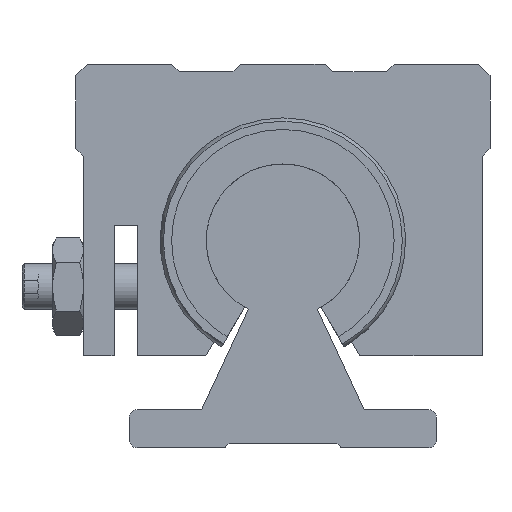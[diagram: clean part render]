
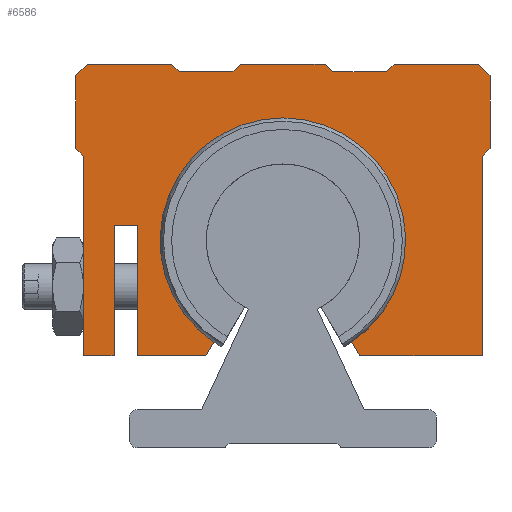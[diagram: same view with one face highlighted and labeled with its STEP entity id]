
A CAD part, left-side view. The second image highlights one B-rep face of the part: STEP entity #6586.
In plain terms, the highlighted planar face has unit normal (-1, 0, 0).
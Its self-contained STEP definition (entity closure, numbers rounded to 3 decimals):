
#5339=CARTESIAN_POINT('',(275.474,-9.0,13.771));
#5340=VERTEX_POINT('',#5339);
#5347=CARTESIAN_POINT('',(275.474,9.,13.771));
#5348=VERTEX_POINT('',#5347);
#5349=CARTESIAN_POINT('',(275.474,0.,27.0));
#5350=DIRECTION('',(-1.0,0.0,0.0));
#5351=DIRECTION('',(0.0,-1.0,0.0));
#5352=AXIS2_PLACEMENT_3D('',#5349,#5350,#5351);
#5353=CIRCLE('',#5352,16.0);
#5354=EDGE_CURVE('',#5340,#5348,#5353,.T.);
#5446=CARTESIAN_POINT('',(275.474,-5.5,50.0));
#5447=VERTEX_POINT('',#5446);
#5448=CARTESIAN_POINT('',(275.474,-6.5,49.0));
#5449=VERTEX_POINT('',#5448);
#5450=CARTESIAN_POINT('',(275.474,-5.5,50.0));
#5451=DIRECTION('',(0.0,-0.707,-0.707));
#5452=VECTOR('',#5451,1.414);
#5453=LINE('',#5450,#5452);
#5454=EDGE_CURVE('',#5447,#5449,#5453,.T.);
#5487=CARTESIAN_POINT('',(275.474,-13.5,49.0));
#5488=VERTEX_POINT('',#5487);
#5489=CARTESIAN_POINT('',(275.474,-6.5,49.0));
#5490=DIRECTION('',(0.0,-1.0,0.0));
#5491=VECTOR('',#5490,7.);
#5492=LINE('',#5489,#5491);
#5493=EDGE_CURVE('',#5449,#5488,#5492,.T.);
#5517=CARTESIAN_POINT('',(275.474,14.5,50.0));
#5518=VERTEX_POINT('',#5517);
#5519=CARTESIAN_POINT('',(275.474,13.5,49.0));
#5520=VERTEX_POINT('',#5519);
#5521=CARTESIAN_POINT('',(275.474,14.5,50.0));
#5522=DIRECTION('',(0.0,-0.707,-0.707));
#5523=VECTOR('',#5522,1.414);
#5524=LINE('',#5521,#5523);
#5525=EDGE_CURVE('',#5518,#5520,#5524,.T.);
#5558=CARTESIAN_POINT('',(275.474,6.5,49.0));
#5559=VERTEX_POINT('',#5558);
#5560=CARTESIAN_POINT('',(275.474,13.5,49.0));
#5561=DIRECTION('',(0.0,-1.0,0.0));
#5562=VECTOR('',#5561,7.);
#5563=LINE('',#5560,#5562);
#5564=EDGE_CURVE('',#5520,#5559,#5563,.T.);
#5588=CARTESIAN_POINT('',(275.474,5.5,50.0));
#5589=VERTEX_POINT('',#5588);
#5590=CARTESIAN_POINT('',(275.474,6.5,49.0));
#5591=DIRECTION('',(0.0,-0.707,0.707));
#5592=VECTOR('',#5591,1.414);
#5593=LINE('',#5590,#5592);
#5594=EDGE_CURVE('',#5559,#5589,#5593,.T.);
#5619=CARTESIAN_POINT('',(275.474,-14.5,50.0));
#5620=VERTEX_POINT('',#5619);
#5621=CARTESIAN_POINT('',(275.474,-13.5,49.0));
#5622=DIRECTION('',(0.0,-0.707,0.707));
#5623=VECTOR('',#5622,1.414);
#5624=LINE('',#5621,#5623);
#5625=EDGE_CURVE('',#5488,#5620,#5624,.T.);
#5650=CARTESIAN_POINT('',(275.474,26.,38.0));
#5651=VERTEX_POINT('',#5650);
#5652=CARTESIAN_POINT('',(275.474,27.0,39.0));
#5653=VERTEX_POINT('',#5652);
#5654=CARTESIAN_POINT('',(275.474,26.,38.0));
#5655=DIRECTION('',(0.0,0.707,0.707));
#5656=VECTOR('',#5655,1.414);
#5657=LINE('',#5654,#5656);
#5658=EDGE_CURVE('',#5651,#5653,#5657,.T.);
#5690=CARTESIAN_POINT('',(275.474,-27.0,39.0));
#5691=VERTEX_POINT('',#5690);
#5692=CARTESIAN_POINT('',(275.474,-26.,38.0));
#5693=VERTEX_POINT('',#5692);
#5694=CARTESIAN_POINT('',(275.474,-27.0,39.0));
#5695=DIRECTION('',(0.0,0.707,-0.707));
#5696=VECTOR('',#5695,1.414);
#5697=LINE('',#5694,#5696);
#5698=EDGE_CURVE('',#5691,#5693,#5697,.T.);
#5731=CARTESIAN_POINT('',(275.474,-26.,12.));
#5732=VERTEX_POINT('',#5731);
#5733=CARTESIAN_POINT('',(275.474,-26.,38.0));
#5734=DIRECTION('',(0.0,0.0,-1.0));
#5735=VECTOR('',#5734,26.);
#5736=LINE('',#5733,#5735);
#5737=EDGE_CURVE('',#5693,#5732,#5736,.T.);
#5771=CARTESIAN_POINT('',(275.474,27.0,48.5));
#5772=VERTEX_POINT('',#5771);
#5779=CARTESIAN_POINT('',(275.474,25.5,50.0));
#5780=VERTEX_POINT('',#5779);
#5781=CARTESIAN_POINT('',(275.474,27.0,48.5));
#5782=DIRECTION('',(0.0,-0.707,0.707));
#5783=VECTOR('',#5782,2.121);
#5784=LINE('',#5781,#5783);
#5785=EDGE_CURVE('',#5772,#5780,#5784,.T.);
#5809=CARTESIAN_POINT('',(275.474,27.0,39.0));
#5810=DIRECTION('',(0.0,0.0,1.0));
#5811=VECTOR('',#5810,9.5);
#5812=LINE('',#5809,#5811);
#5813=EDGE_CURVE('',#5653,#5772,#5812,.T.);
#5946=CARTESIAN_POINT('',(275.474,-25.5,50.0));
#5947=VERTEX_POINT('',#5946);
#5954=CARTESIAN_POINT('',(275.474,-27.0,48.5));
#5955=VERTEX_POINT('',#5954);
#5956=CARTESIAN_POINT('',(275.474,-25.5,50.0));
#5957=DIRECTION('',(0.0,-0.707,-0.707));
#5958=VECTOR('',#5957,2.121);
#5959=LINE('',#5956,#5958);
#5960=EDGE_CURVE('',#5947,#5955,#5959,.T.);
#5979=CARTESIAN_POINT('',(275.474,-14.5,50.0));
#5980=DIRECTION('',(0.0,-1.0,0.0));
#5981=VECTOR('',#5980,11.);
#5982=LINE('',#5979,#5981);
#5983=EDGE_CURVE('',#5620,#5947,#5982,.T.);
#6317=CARTESIAN_POINT('',(275.474,26.,12.));
#6318=VERTEX_POINT('',#6317);
#6325=CARTESIAN_POINT('',(275.474,26.,12.));
#6326=DIRECTION('',(0.0,0.0,1.0));
#6327=VECTOR('',#6326,26.);
#6328=LINE('',#6325,#6327);
#6329=EDGE_CURVE('',#6318,#5651,#6328,.T.);
#6348=CARTESIAN_POINT('',(275.474,22.,12.));
#6349=VERTEX_POINT('',#6348);
#6356=CARTESIAN_POINT('',(275.474,22.,12.));
#6357=DIRECTION('',(0.0,1.0,0.0));
#6358=VECTOR('',#6357,4.0);
#6359=LINE('',#6356,#6358);
#6360=EDGE_CURVE('',#6349,#6318,#6359,.T.);
#6372=CARTESIAN_POINT('',(275.474,22.0,29.));
#6373=VERTEX_POINT('',#6372);
#6380=CARTESIAN_POINT('',(275.474,22.0,29.));
#6381=DIRECTION('',(0.0,0.0,-1.0));
#6382=VECTOR('',#6381,17.0);
#6383=LINE('',#6380,#6382);
#6384=EDGE_CURVE('',#6373,#6349,#6383,.T.);
#6399=CARTESIAN_POINT('',(275.474,19.,29.));
#6400=VERTEX_POINT('',#6399);
#6407=CARTESIAN_POINT('',(275.474,19.,29.));
#6408=DIRECTION('',(0.0,1.0,0.0));
#6409=VECTOR('',#6408,3.);
#6410=LINE('',#6407,#6409);
#6411=EDGE_CURVE('',#6400,#6373,#6410,.T.);
#6423=CARTESIAN_POINT('',(275.474,19.,12.));
#6424=VERTEX_POINT('',#6423);
#6431=CARTESIAN_POINT('',(275.474,19.,12.));
#6432=DIRECTION('',(0.0,0.0,1.0));
#6433=VECTOR('',#6432,17.0);
#6434=LINE('',#6431,#6433);
#6435=EDGE_CURVE('',#6424,#6400,#6434,.T.);
#6450=CARTESIAN_POINT('',(275.474,10.023,12.));
#6451=VERTEX_POINT('',#6450);
#6458=CARTESIAN_POINT('',(275.474,10.023,12.));
#6459=DIRECTION('',(0.0,1.0,0.0));
#6460=VECTOR('',#6459,8.977);
#6461=LINE('',#6458,#6460);
#6462=EDGE_CURVE('',#6451,#6424,#6461,.T.);
#6481=CARTESIAN_POINT('',(275.474,9.,13.771));
#6482=DIRECTION('',(0.0,0.5,-0.866));
#6483=VECTOR('',#6482,2.045);
#6484=LINE('',#6481,#6483);
#6485=EDGE_CURVE('',#5348,#6451,#6484,.T.);
#6497=CARTESIAN_POINT('',(275.474,-10.023,12.));
#6498=VERTEX_POINT('',#6497);
#6505=CARTESIAN_POINT('',(275.474,-10.023,12.));
#6506=DIRECTION('',(0.0,0.5,0.866));
#6507=VECTOR('',#6506,2.045);
#6508=LINE('',#6505,#6507);
#6509=EDGE_CURVE('',#6498,#5340,#6508,.T.);
#6528=CARTESIAN_POINT('',(275.474,-26.,12.));
#6529=DIRECTION('',(0.0,1.0,0.0));
#6530=VECTOR('',#6529,15.977);
#6531=LINE('',#6528,#6530);
#6532=EDGE_CURVE('',#5732,#6498,#6531,.T.);
#6538=CARTESIAN_POINT('',(275.474,2.476,30.276));
#6539=DIRECTION('',(1.0,0.0,0.0));
#6540=DIRECTION('',(0.0,0.0,-1.0));
#6541=AXIS2_PLACEMENT_3D('',#6538,#6539,#6540);
#6542=PLANE('',#6541);
#6543=ORIENTED_EDGE('',*,*,#5785,.F.);
#6544=ORIENTED_EDGE('',*,*,#5813,.F.);
#6545=ORIENTED_EDGE('',*,*,#5658,.F.);
#6546=ORIENTED_EDGE('',*,*,#6329,.F.);
#6547=ORIENTED_EDGE('',*,*,#6360,.F.);
#6548=ORIENTED_EDGE('',*,*,#6384,.F.);
#6549=ORIENTED_EDGE('',*,*,#6411,.F.);
#6550=ORIENTED_EDGE('',*,*,#6435,.F.);
#6551=ORIENTED_EDGE('',*,*,#6462,.F.);
#6552=ORIENTED_EDGE('',*,*,#6485,.F.);
#6553=ORIENTED_EDGE('',*,*,#5354,.F.);
#6554=ORIENTED_EDGE('',*,*,#6509,.F.);
#6555=ORIENTED_EDGE('',*,*,#6532,.F.);
#6556=ORIENTED_EDGE('',*,*,#5737,.F.);
#6557=ORIENTED_EDGE('',*,*,#5698,.F.);
#6558=CARTESIAN_POINT('',(275.474,-27.0,48.5));
#6559=DIRECTION('',(0.0,0.0,-1.0));
#6560=VECTOR('',#6559,9.5);
#6561=LINE('',#6558,#6560);
#6562=EDGE_CURVE('',#5955,#5691,#6561,.T.);
#6563=ORIENTED_EDGE('',*,*,#6562,.F.);
#6564=ORIENTED_EDGE('',*,*,#5960,.F.);
#6565=ORIENTED_EDGE('',*,*,#5983,.F.);
#6566=ORIENTED_EDGE('',*,*,#5625,.F.);
#6567=ORIENTED_EDGE('',*,*,#5493,.F.);
#6568=ORIENTED_EDGE('',*,*,#5454,.F.);
#6569=CARTESIAN_POINT('',(275.474,5.5,50.0));
#6570=DIRECTION('',(0.0,-1.0,0.0));
#6571=VECTOR('',#6570,11.0);
#6572=LINE('',#6569,#6571);
#6573=EDGE_CURVE('',#5589,#5447,#6572,.T.);
#6574=ORIENTED_EDGE('',*,*,#6573,.F.);
#6575=ORIENTED_EDGE('',*,*,#5594,.F.);
#6576=ORIENTED_EDGE('',*,*,#5564,.F.);
#6577=ORIENTED_EDGE('',*,*,#5525,.F.);
#6578=CARTESIAN_POINT('',(275.474,25.5,50.0));
#6579=DIRECTION('',(0.0,-1.0,0.0));
#6580=VECTOR('',#6579,11.0);
#6581=LINE('',#6578,#6580);
#6582=EDGE_CURVE('',#5780,#5518,#6581,.T.);
#6583=ORIENTED_EDGE('',*,*,#6582,.F.);
#6584=EDGE_LOOP('',(#6543,#6544,#6545,#6546,#6547,#6548,#6549,#6550,#6551,#6552,#6553,#6554,#6555,#6556,#6557,#6563,#6564,#6565,#6566,#6567,#6568,#6574,#6575,#6576,#6577,#6583));
#6585=FACE_OUTER_BOUND('',#6584,.T.);
#6586=ADVANCED_FACE('',(#6585),#6542,.F.);
